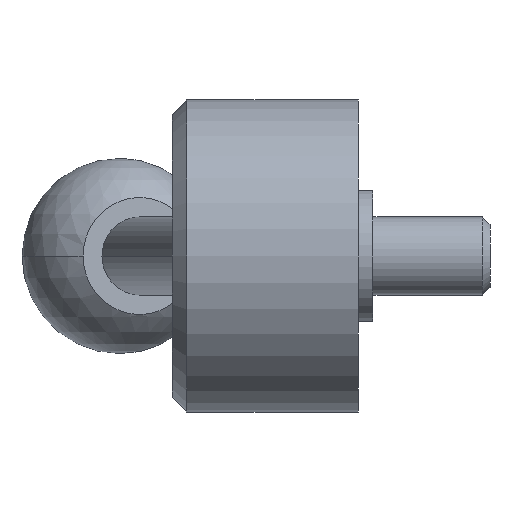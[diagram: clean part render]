
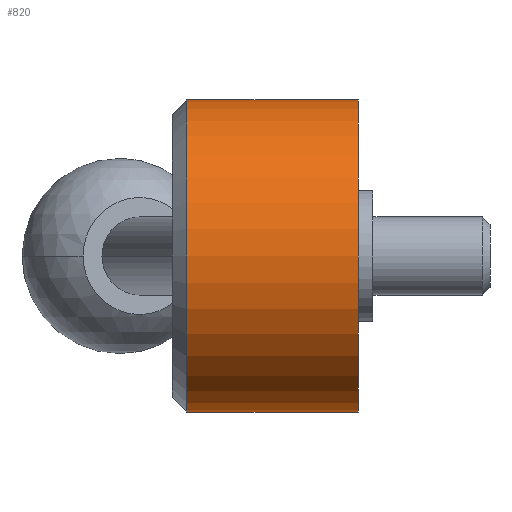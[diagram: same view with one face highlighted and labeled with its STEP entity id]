
A CAD part, left-side view. The second image highlights one B-rep face of the part: STEP entity #820.
In plain terms, the highlighted cylindrical face has radius 16 mm (diameter 32 mm), a partial arc.
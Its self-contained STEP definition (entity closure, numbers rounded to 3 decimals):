
#6 = VERTEX_POINT ( 'NONE', #495 ) ;
#19 = VERTEX_POINT ( 'NONE', #428 ) ;
#29 = DIRECTION ( 'NONE',  ( 0., -1., 0. ) ) ;
#45 = DIRECTION ( 'NONE',  ( 0., -1., 0. ) ) ;
#64 = EDGE_CURVE ( 'NONE', #19, #813, #390, .T. ) ;
#80 = EDGE_LOOP ( 'NONE', ( #801, #838, #293, #296 ) ) ;
#166 = DIRECTION ( 'NONE',  ( 0., 0., -1. ) ) ;
#174 = CARTESIAN_POINT ( 'NONE',  ( 0., 17.6, 0. ) ) ;
#200 = EDGE_CURVE ( 'NONE', #813, #282, #446, .T. ) ;
#218 = AXIS2_PLACEMENT_3D ( 'NONE', #174, #29, #386 ) ;
#250 = EDGE_CURVE ( 'NONE', #19, #6, #482, .T. ) ;
#258 = CARTESIAN_POINT ( 'NONE',  ( 0., 0., 16. ) ) ;
#282 = VERTEX_POINT ( 'NONE', #295 ) ;
#293 = ORIENTED_EDGE ( 'NONE', *, *, #200, .T. ) ;
#295 = CARTESIAN_POINT ( 'NONE',  ( 0., 0., -16. ) ) ;
#296 = ORIENTED_EDGE ( 'NONE', *, *, #340, .F. ) ;
#309 = CARTESIAN_POINT ( 'NONE',  ( 0., 0., 0. ) ) ;
#318 = VECTOR ( 'NONE', #398, 1000. ) ;
#340 = EDGE_CURVE ( 'NONE', #6, #282, #416, .T. ) ;
#386 = DIRECTION ( 'NONE',  ( 0., 0., 1. ) ) ;
#387 = CARTESIAN_POINT ( 'NONE',  ( 0., 0., 0. ) ) ;
#390 = CIRCLE ( 'NONE', #218, 16. ) ;
#398 = DIRECTION ( 'NONE',  ( 0., -1., 0. ) ) ;
#416 = CIRCLE ( 'NONE', #467, 16. ) ;
#428 = CARTESIAN_POINT ( 'NONE',  ( 0., 17.6, 16. ) ) ;
#446 = LINE ( 'NONE', #789, #318 ) ;
#454 = FACE_OUTER_BOUND ( 'NONE', #80, .T. ) ;
#467 = AXIS2_PLACEMENT_3D ( 'NONE', #309, #581, #166 ) ;
#482 = LINE ( 'NONE', #258, #506 ) ;
#495 = CARTESIAN_POINT ( 'NONE',  ( 0., 0., 16. ) ) ;
#506 = VECTOR ( 'NONE', #45, 1000. ) ;
#513 = CYLINDRICAL_SURFACE ( 'NONE', #887, 16. ) ;
#581 = DIRECTION ( 'NONE',  ( 0., -1., 0. ) ) ;
#596 = CARTESIAN_POINT ( 'NONE',  ( 0., 17.6, -16. ) ) ;
#648 = DIRECTION ( 'NONE',  ( 0., 0., -1. ) ) ;
#726 = DIRECTION ( 'NONE',  ( 0., -1., 0. ) ) ;
#789 = CARTESIAN_POINT ( 'NONE',  ( 0., 0., -16. ) ) ;
#801 = ORIENTED_EDGE ( 'NONE', *, *, #250, .F. ) ;
#813 = VERTEX_POINT ( 'NONE', #596 ) ;
#820 = ADVANCED_FACE ( 'NONE', ( #454 ), #513, .T. ) ;
#838 = ORIENTED_EDGE ( 'NONE', *, *, #64, .T. ) ;
#887 = AXIS2_PLACEMENT_3D ( 'NONE', #387, #726, #648 ) ;
